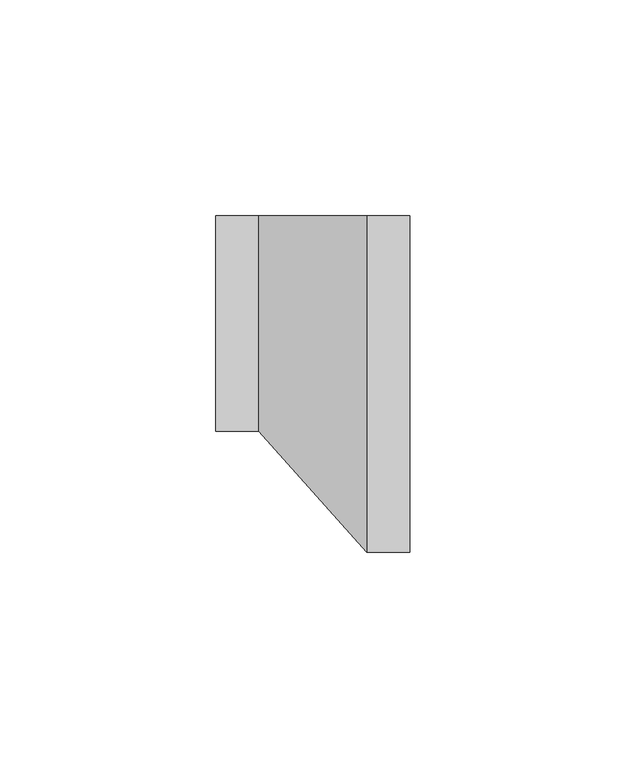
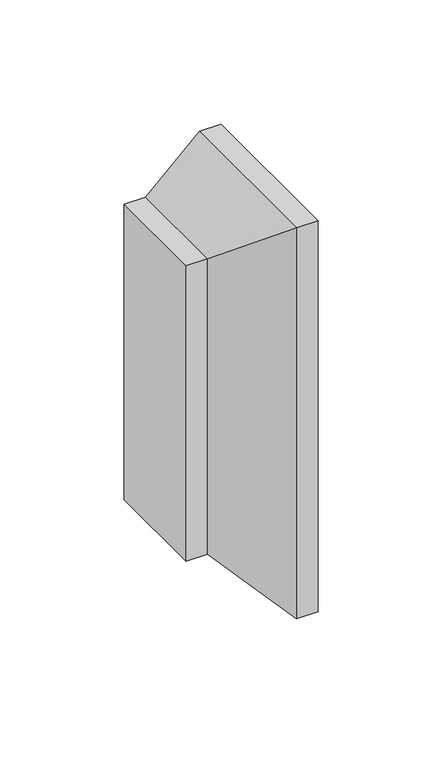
"""IFC4 building model written with IfcOpenShell, lengths in millimetres: duct fitting geometry, КНС_ВводВСтену_DKC : Ввод в стену."""

from ifc_helpers import new_model, si_unit, origin, place, context, project, spatial, faceted_brep, source, transform, mapped, element, save


def duct_fitting_e088d14e(model_context):
    return source(origin(), model_context, "Body", "Brep", [
        faceted_brep([(20.1665888, -40.0757244, 72.5), (45.1665888, -68.0757244, 96.0), (45.1665888, 9.9242756, 96.0), (20.1665888, 9.9242756, 72.5), (20.1665888, -40.0757244, -72.5), (45.1665888, -68.0757244, -96.0), (20.1665888, 9.9242756, -72.5), (45.1665888, 9.9242756, -96.0), (55.1665888, 9.9242756, 96.0), (55.1665888, 9.9242756, -96.0), (10.1665888, 9.9242756, -72.5), (10.1665888, 9.9242756, 72.5), (10.1665888, -40.0757244, -72.5), (10.1665888, -40.0757244, 72.5), (55.1665888, -68.0757244, 96.0), (55.1665888, -68.0757244, -96.0)], [[[0, 1, 2, 3]], [[1, 0, 4, 5]], [[5, 4, 6, 7]], [[3, 2, 8, 9, 7, 6, 10, 11]], [[12, 4, 0, 13]], [[4, 12, 10, 6]], [[13, 0, 3, 11]], [[12, 13, 11, 10]], [[1, 14, 8, 2]], [[7, 9, 15, 5]], [[14, 1, 5, 15]], [[8, 14, 15, 9]]]),
    ])


if __name__ == "__main__":
    model = new_model("IFC4")
    model_context = context("Model", 3, world=origin())
    ifc_project = project(units=[si_unit("LENGTHUNIT", "METRE", prefix="MILLI")], contexts=[model_context])
    site = spatial("IfcSite", under=ifc_project)
    building = spatial("IfcBuilding", under=site)
    placement = place(None, origin())
    duct_fitting_shape = duct_fitting_e088d14e(model_context)
    element("IfcDuctFitting", 1, ObjectType="КНС_ВводВСтену_DKC : Ввод в стену", at=placement, inside=building, context=model_context, shape_type="MappedRepresentation", body=[
        mapped(duct_fitting_shape, transform((0.0, 0.0, 0.0), x_axis=(1.0, 0.0, 0.0), y_axis=(0.0, 1.0, 0.0), z_axis=(0.0, 0.0, 1.0))),
    ])
    save(model, "model.ifc")
